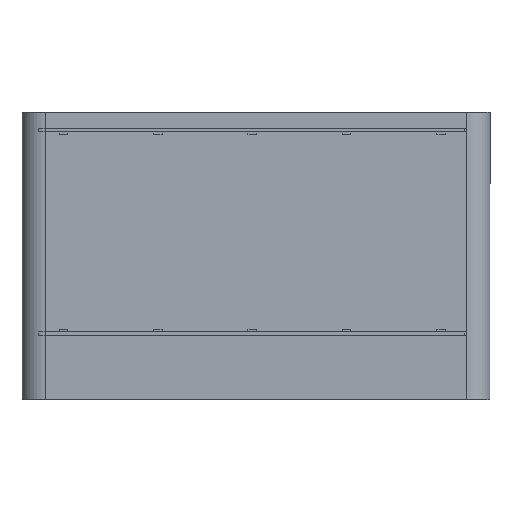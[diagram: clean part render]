
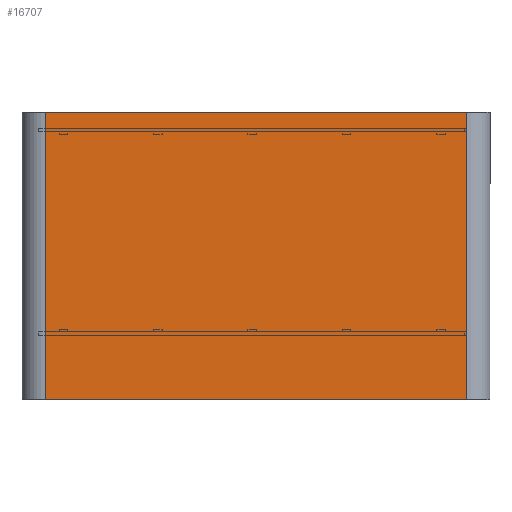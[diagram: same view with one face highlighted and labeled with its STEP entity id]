
A CAD part, front view. The second image highlights one B-rep face of the part: STEP entity #16707.
In plain terms, the highlighted planar face has unit normal (0, -1, 0).
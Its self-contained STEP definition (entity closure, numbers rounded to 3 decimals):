
#2164=ORIENTED_EDGE('',*,*,#6583,.T.);
#2165=ORIENTED_EDGE('',*,*,#6567,.F.);
#2166=ORIENTED_EDGE('',*,*,#6582,.F.);
#2167=ORIENTED_EDGE('',*,*,#6584,.T.);
#6567=EDGE_CURVE('',#8859,#8858,#10568,.T.);
#6582=EDGE_CURVE('',#8873,#8859,#10577,.F.);
#6583=EDGE_CURVE('',#8874,#8858,#10578,.F.);
#6584=EDGE_CURVE('',#8873,#8874,#10579,.T.);
#8858=VERTEX_POINT('',#24984);
#8859=VERTEX_POINT('',#24986);
#8873=VERTEX_POINT('',#25016);
#8874=VERTEX_POINT('',#25020);
#10568=LINE('',#24987,#12279);
#10577=LINE('',#25017,#12288);
#10578=LINE('',#25019,#12289);
#10579=LINE('',#25021,#12290);
#12279=VECTOR('',#20376,1000.);
#12288=VECTOR('',#20399,1000.);
#12289=VECTOR('',#20402,1000.);
#12290=VECTOR('',#20403,1000.);
#13805=EDGE_LOOP('',(#2164,#2165,#2166,#2167));
#14986=FACE_BOUND('',#13805,.T.);
#16084=PLANE('',#18344);
#16707=ADVANCED_FACE('',(#14986),#16084,.F.);
#18344=AXIS2_PLACEMENT_3D('',#25018,#20400,#20401);
#20376=DIRECTION('',(0.,0.,1.));
#20399=DIRECTION('',(1.,0.,0.));
#20400=DIRECTION('',(0.,1.,0.));
#20401=DIRECTION('',(0.,0.,1.));
#20402=DIRECTION('',(1.,0.,0.));
#20403=DIRECTION('',(0.,0.,1.));
#24984=CARTESIAN_POINT('',(-196.,-218.5,267.5));
#24986=CARTESIAN_POINT('',(-196.,-218.5,0.));
#24987=CARTESIAN_POINT('',(-196.,-218.5,0.));
#25016=CARTESIAN_POINT('',(197.,-218.5,0.));
#25017=CARTESIAN_POINT('',(-196.,-218.5,0.));
#25018=CARTESIAN_POINT('',(-196.,-218.5,0.));
#25019=CARTESIAN_POINT('',(-196.,-218.5,267.5));
#25020=CARTESIAN_POINT('',(197.,-218.5,267.5));
#25021=CARTESIAN_POINT('',(197.,-218.5,0.));
